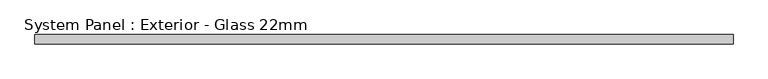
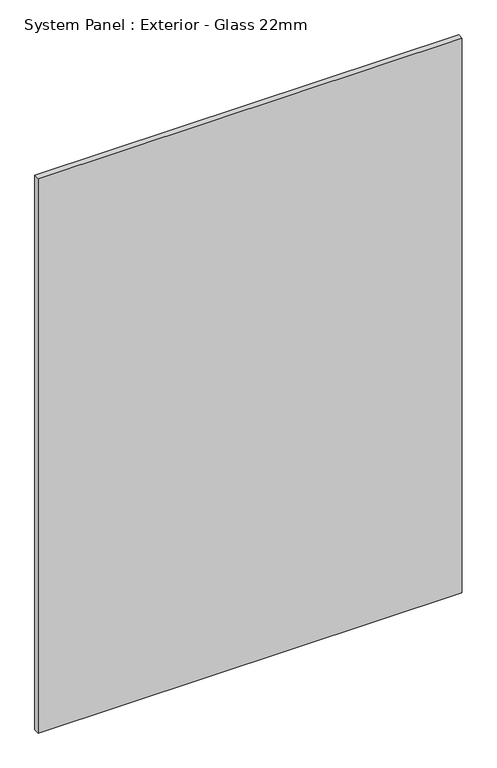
"""IFC4 building model written with IfcOpenShell, lengths in millimetres: plate geometry, System Panel : Exterior - Glass 22mm."""

from ifc_helpers import new_model, si_unit, origin, origin_with_axes, place, context, project, spatial, polyline, outline, extrude, source, transform, mapped, element, save


def system_panel_exterior_glass_22mm_989a1269(model_context):
    return source(origin(), model_context, "Body", "SweptSolid", [
        extrude(outline(polyline([(832.5, -50.0), (-832.5, -50.0), (-832.5, -28.0), (832.5, -28.0), (832.5, -50.0)])), origin_with_axes(), (0.0, 0.0, 1.0), 2300.0),
    ])


if __name__ == "__main__":
    model = new_model("IFC4")
    model_context = context("Model", 3, world=origin())
    ifc_project = project(units=[si_unit("LENGTHUNIT", "METRE", prefix="MILLI")], contexts=[model_context])
    site = spatial("IfcSite", under=ifc_project)
    building = spatial("IfcBuilding", under=site)
    placement = place(None, origin())
    system_panel_exterior_glass_22mm_shape = system_panel_exterior_glass_22mm_989a1269(model_context)
    element("IfcPlate", 1, ObjectType="System Panel : Exterior - Glass 22mm", at=placement, inside=building, context=model_context, shape_type="MappedRepresentation", body=[
        mapped(system_panel_exterior_glass_22mm_shape, transform((0.0, 0.0, 0.0), x_axis=(1.0, 0.0, 0.0), y_axis=(0.0, 1.0, 0.0), z_axis=(0.0, 0.0, 1.0))),
    ])
    save(model, "model.ifc")
